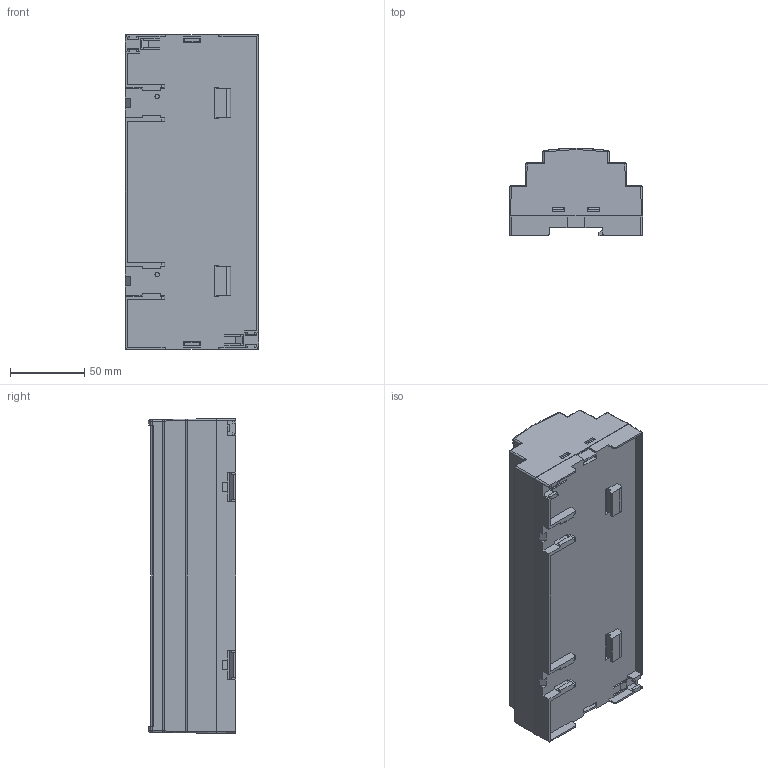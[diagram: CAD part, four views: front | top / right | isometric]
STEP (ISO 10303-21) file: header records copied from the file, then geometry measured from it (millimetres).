
FILE_DESCRIPTION (( 'STEP AP203' ), '1' );
FILE_NAME ('RT-212-A.STEP', '2025-08-14T13:59:00', ( '' ), ( '' ), 'SwSTEP 2.0', 'SolidWorks 2021', '' );
FILE_SCHEMA (( 'CONFIG_CONTROL_DESIGN' ));
Length unit declared in the file: millimetre
Products named in the file (4): RT-212-P-1; RT-212-25_RT-212-25-M3; RT-212-P-2_A; RT-212-A
Assembly tree (3 placements, depth 2):
  RT-212-A
    RT-212-P-1
    RT-212-P-2_A
    RT-212-25_RT-212-25-M3
Bounding box: 90 x 58.9 x 212.1 mm (x, y, z)
Volume: 138854.3 mm3; surface area: 145835.5 mm2
Topology: 3 solids, 3 shells, 555 faces, 1625 edges, 1068 vertices
Faces by surface type: plane 436, cylinder 68, bspline 23, cone 16, sphere 12
Entity records: 19763 total; most frequent: CARTESIAN_POINT 5047, ORIENTED_EDGE 3234, DIRECTION 2606, EDGE_CURVE 1617, LINE 1352, VECTOR 1352, VERTEX_POINT 1068, AXIS2_PLACEMENT_3D 627
